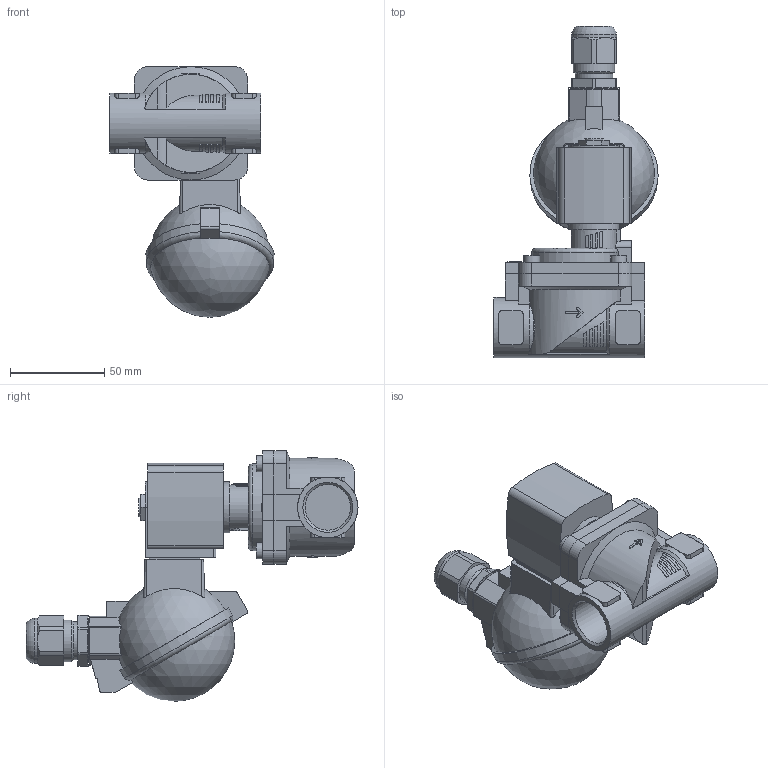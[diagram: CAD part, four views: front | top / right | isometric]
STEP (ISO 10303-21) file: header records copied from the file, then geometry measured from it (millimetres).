
FILE_DESCRIPTION(/* description */ ('STEP AP214'),/* implementation_level */ '2;1');
FILE_NAME(/* name */ '6281-373255-2_2-Way_Solenoid_Valve__Servo-assisted__General_Purpose',/* time_stamp */ '2024-08-20T21:56:02+02:00',/* author */ ('License CC BY-ND 4.0'),/* organization */ ('CADENAS'),/* preprocessor_version */ 'ST-DEVELOPER v19.3',/* originating_system */ 'PARTsolutions',/* authorisation */ ' ');
FILE_SCHEMA (('AUTOMOTIVE_DESIGN {1 0 10303 214 3 1 1}'));
Length unit declared in the file: millimetre
Products named in the file (4): 6281-373255-2/2-Way Solenoid Valve, Servo-assisted, General Purpose; 5281ev200VA2/2-Wege-Magnetventil mit Servomembran-Deckel   ; 6213-20G3/4VA-Gehaeuse-; AC10ex-6ATEXKLK_MB05Plan-Coil
Assembly tree (3 placements, depth 2):
  6281-373255-2/2-Way Solenoid Valve, Servo-assisted, General Purpose
    5281ev200VA2/2-Wege-Magnetventil mit Servomembran-Deckel   
    6213-20G3/4VA-Gehaeuse-
    AC10ex-6ATEXKLK_MB05Plan-Coil
Bounding box: 86.93 x 175.8 x 132.7 mm (x, y, z)
Volume: 393382.7 mm3; surface area: 66455.6 mm2
Topology: 3 solids, 3 shells, 391 faces, 1014 edges, 666 vertices
Faces by surface type: plane 240, cylinder 114, cone 29, torus 4, sphere 4
Full cylindrical faces by diameter (mm): 3.242 x1, 8.5 x4, 9.74 x1, 14 x1, 17.294 x1, 20 x1, 22 x1, 23 x1, 24 x1, 24.117 x2, 27 x2, 32 x1
Entity records: 13520 total; most frequent: CARTESIAN_POINT 2371, DIRECTION 2016, ORIENTED_EDGE 1942, EDGE_CURVE 971, AXIS2_PLACEMENT_3D 744, VERTEX_POINT 651, LINE 528, VECTOR 528
